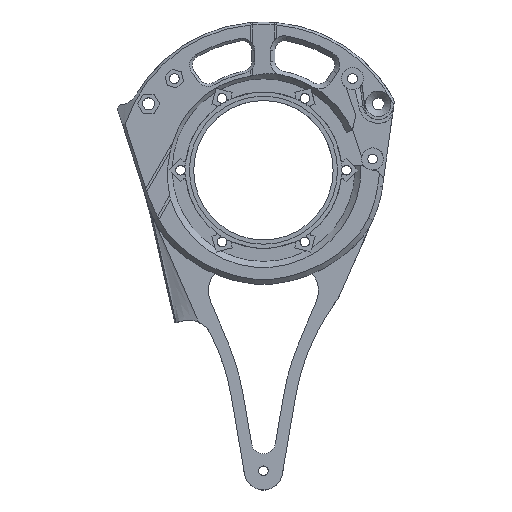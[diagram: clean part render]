
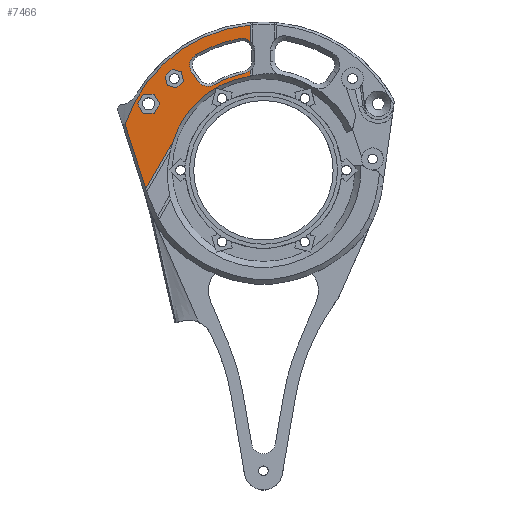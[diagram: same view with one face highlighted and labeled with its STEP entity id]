
A CAD part, top view. The second image highlights one B-rep face of the part: STEP entity #7466.
In plain terms, the highlighted planar face has unit normal (0, 0, 1).
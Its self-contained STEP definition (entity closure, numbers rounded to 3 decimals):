
#248=PLANE('',#8274);
#717=LINE('',#14058,#1255);
#757=LINE('',#14208,#1295);
#758=LINE('',#14210,#1296);
#759=LINE('',#14213,#1297);
#760=LINE('',#14215,#1298);
#761=LINE('',#14217,#1299);
#762=LINE('',#14219,#1300);
#763=LINE('',#14221,#1301);
#764=LINE('',#14222,#1302);
#765=LINE('',#14225,#1303);
#766=LINE('',#14227,#1304);
#767=LINE('',#14229,#1305);
#768=LINE('',#14231,#1306);
#769=LINE('',#14233,#1307);
#770=LINE('',#14234,#1308);
#771=LINE('',#14237,#1309);
#772=LINE('',#14238,#1310);
#1255=VECTOR('',#10152,1000.);
#1295=VECTOR('',#10302,1000.);
#1296=VECTOR('',#10305,1000.);
#1297=VECTOR('',#10306,1000.);
#1298=VECTOR('',#10307,1000.);
#1299=VECTOR('',#10308,1000.);
#1300=VECTOR('',#10309,1000.);
#1301=VECTOR('',#10310,1000.);
#1302=VECTOR('',#10311,1000.);
#1303=VECTOR('',#10312,1000.);
#1304=VECTOR('',#10313,1000.);
#1305=VECTOR('',#10314,1000.);
#1306=VECTOR('',#10315,1000.);
#1307=VECTOR('',#10316,1000.);
#1308=VECTOR('',#10317,1000.);
#1309=VECTOR('',#10320,1000.);
#1310=VECTOR('',#10321,1000.);
#3562=ORIENTED_EDGE('',*,*,#4799,.F.);
#3563=ORIENTED_EDGE('',*,*,#4800,.F.);
#3564=ORIENTED_EDGE('',*,*,#4801,.F.);
#3565=ORIENTED_EDGE('',*,*,#4802,.F.);
#3566=ORIENTED_EDGE('',*,*,#4803,.F.);
#3567=ORIENTED_EDGE('',*,*,#4804,.F.);
#3568=ORIENTED_EDGE('',*,*,#4805,.F.);
#3569=ORIENTED_EDGE('',*,*,#4806,.F.);
#3570=ORIENTED_EDGE('',*,*,#4807,.F.);
#3571=ORIENTED_EDGE('',*,*,#4808,.F.);
#3572=ORIENTED_EDGE('',*,*,#4809,.F.);
#3573=ORIENTED_EDGE('',*,*,#4810,.F.);
#3574=ORIENTED_EDGE('',*,*,#4811,.T.);
#3575=ORIENTED_EDGE('',*,*,#4812,.T.);
#3576=ORIENTED_EDGE('',*,*,#4730,.T.);
#3577=ORIENTED_EDGE('',*,*,#4813,.T.);
#3578=ORIENTED_EDGE('',*,*,#4574,.F.);
#3579=ORIENTED_EDGE('',*,*,#4814,.T.);
#3580=ORIENTED_EDGE('',*,*,#4782,.T.);
#3581=ORIENTED_EDGE('',*,*,#4790,.T.);
#3582=ORIENTED_EDGE('',*,*,#4794,.T.);
#3583=ORIENTED_EDGE('',*,*,#4798,.T.);
#3584=ORIENTED_EDGE('',*,*,#4796,.T.);
#3585=ORIENTED_EDGE('',*,*,#4792,.T.);
#3586=ORIENTED_EDGE('',*,*,#4786,.T.);
#4574=EDGE_CURVE('',#5463,#5464,#5937,.F.);
#4730=EDGE_CURVE('',#5535,#5536,#717,.F.);
#4782=EDGE_CURVE('',#5560,#5561,#5984,.T.);
#4786=EDGE_CURVE('',#5563,#5564,#5985,.T.);
#4790=EDGE_CURVE('',#5561,#5566,#5986,.F.);
#4792=EDGE_CURVE('',#5567,#5563,#5987,.T.);
#4794=EDGE_CURVE('',#5566,#5568,#5988,.T.);
#4796=EDGE_CURVE('',#5569,#5567,#5989,.T.);
#4798=EDGE_CURVE('',#5568,#5569,#757,.F.);
#4799=EDGE_CURVE('',#5570,#5571,#758,.T.);
#4800=EDGE_CURVE('',#5572,#5570,#759,.T.);
#4801=EDGE_CURVE('',#5573,#5572,#760,.T.);
#4802=EDGE_CURVE('',#5574,#5573,#761,.T.);
#4803=EDGE_CURVE('',#5575,#5574,#762,.T.);
#4804=EDGE_CURVE('',#5571,#5575,#763,.T.);
#4805=EDGE_CURVE('',#5576,#5577,#764,.T.);
#4806=EDGE_CURVE('',#5578,#5576,#765,.T.);
#4807=EDGE_CURVE('',#5579,#5578,#766,.T.);
#4808=EDGE_CURVE('',#5580,#5579,#767,.T.);
#4809=EDGE_CURVE('',#5581,#5580,#768,.T.);
#4810=EDGE_CURVE('',#5577,#5581,#769,.T.);
#4811=EDGE_CURVE('',#5564,#5582,#770,.F.);
#4812=EDGE_CURVE('',#5582,#5535,#5990,.F.);
#4813=EDGE_CURVE('',#5536,#5464,#771,.T.);
#4814=EDGE_CURVE('',#5463,#5560,#772,.F.);
#5463=VERTEX_POINT('',#13515);
#5464=VERTEX_POINT('',#13517);
#5535=VERTEX_POINT('',#14059);
#5536=VERTEX_POINT('',#14060);
#5560=VERTEX_POINT('',#14171);
#5561=VERTEX_POINT('',#14172);
#5563=VERTEX_POINT('',#14182);
#5564=VERTEX_POINT('',#14183);
#5566=VERTEX_POINT('',#14193);
#5567=VERTEX_POINT('',#14197);
#5568=VERTEX_POINT('',#14201);
#5569=VERTEX_POINT('',#14205);
#5570=VERTEX_POINT('',#14211);
#5571=VERTEX_POINT('',#14212);
#5572=VERTEX_POINT('',#14214);
#5573=VERTEX_POINT('',#14216);
#5574=VERTEX_POINT('',#14218);
#5575=VERTEX_POINT('',#14220);
#5576=VERTEX_POINT('',#14223);
#5577=VERTEX_POINT('',#14224);
#5578=VERTEX_POINT('',#14226);
#5579=VERTEX_POINT('',#14228);
#5580=VERTEX_POINT('',#14230);
#5581=VERTEX_POINT('',#14232);
#5582=VERTEX_POINT('',#14235);
#5937=CIRCLE('',#8096,39.5);
#5984=CIRCLE('',#8260,5.);
#5985=CIRCLE('',#8263,5.);
#5986=CIRCLE('',#8266,41.);
#5987=CIRCLE('',#8268,55.625);
#5988=CIRCLE('',#8270,5.);
#5989=CIRCLE('',#8272,5.);
#5990=CIRCLE('',#8275,60.625);
#6424=EDGE_LOOP('',(#3562,#3563,#3564,#3565,#3566,#3567));
#6425=EDGE_LOOP('',(#3568,#3569,#3570,#3571,#3572,#3573));
#6426=EDGE_LOOP('',(#3574,#3575,#3576,#3577,#3578,#3579,#3580,#3581,#3582,
#3583,#3584,#3585,#3586));
#6894=FACE_BOUND('',#6424,.T.);
#6895=FACE_BOUND('',#6425,.T.);
#6896=FACE_BOUND('',#6426,.T.);
#7466=ADVANCED_FACE('',(#6894,#6895,#6896),#248,.F.);
#8096=AXIS2_PLACEMENT_3D('',#13516,#9819,#9820);
#8260=AXIS2_PLACEMENT_3D('',#14170,#10268,#10269);
#8263=AXIS2_PLACEMENT_3D('',#14181,#10275,#10276);
#8266=AXIS2_PLACEMENT_3D('',#14192,#10282,#10283);
#8268=AXIS2_PLACEMENT_3D('',#14196,#10287,#10288);
#8270=AXIS2_PLACEMENT_3D('',#14200,#10292,#10293);
#8272=AXIS2_PLACEMENT_3D('',#14204,#10297,#10298);
#8274=AXIS2_PLACEMENT_3D('',#14209,#10303,#10304);
#8275=AXIS2_PLACEMENT_3D('',#14236,#10318,#10319);
#9819=DIRECTION('',(0.,0.,-1.));
#9820=DIRECTION('',(-1.,0.,0.));
#10152=DIRECTION('',(-0.305,0.952,0.));
#10268=DIRECTION('',(0.,0.,-1.));
#10269=DIRECTION('',(-1.,0.,0.));
#10275=DIRECTION('',(0.,0.,-1.));
#10276=DIRECTION('',(-1.,0.,0.));
#10282=DIRECTION('',(0.,0.,-1.));
#10283=DIRECTION('',(-1.,0.,0.));
#10287=DIRECTION('',(0.,0.,-1.));
#10288=DIRECTION('',(-1.,0.,0.));
#10292=DIRECTION('',(0.,0.,-1.));
#10293=DIRECTION('',(-1.,0.,0.));
#10297=DIRECTION('',(0.,0.,-1.));
#10298=DIRECTION('',(-1.,0.,0.));
#10302=DIRECTION('',(0.574,-0.819,0.));
#10303=DIRECTION('',(0.,0.,-1.));
#10304=DIRECTION('',(-1.,0.,0.));
#10305=DIRECTION('',(0.962,-0.272,0.));
#10306=DIRECTION('',(0.245,-0.969,0.));
#10307=DIRECTION('',(-0.717,-0.697,0.));
#10308=DIRECTION('',(-0.962,0.272,0.));
#10309=DIRECTION('',(-0.245,0.969,0.));
#10310=DIRECTION('',(0.717,0.697,0.));
#10311=DIRECTION('',(1.,0.,0.));
#10312=DIRECTION('',(0.5,-0.866,0.));
#10313=DIRECTION('',(-0.5,-0.866,0.));
#10314=DIRECTION('',(-1.,0.,0.));
#10315=DIRECTION('',(-0.5,0.866,0.));
#10316=DIRECTION('',(0.5,0.866,0.));
#10317=DIRECTION('',(0.,-1.,0.));
#10318=DIRECTION('',(0.,0.,-1.));
#10319=DIRECTION('',(-1.,0.,0.));
#10320=DIRECTION('',(0.5,0.866,0.));
#10321=DIRECTION('',(0.,-1.,0.));
#13515=CARTESIAN_POINT('',(-5.499,39.115,-3.792));
#13516=CARTESIAN_POINT('',(0.,0.,
-3.792));
#13517=CARTESIAN_POINT('',(-37.759,11.596,-3.792));
#14058=CARTESIAN_POINT('',(-46.667,-14.938,-3.792));
#14059=CARTESIAN_POINT('',(-57.551,19.061,-3.792));
#14060=CARTESIAN_POINT('',(-48.954,-7.794,-3.792));
#14170=CARTESIAN_POINT('',(-8.761,45.158,-3.792));
#14171=CARTESIAN_POINT('',(-5.499,41.369,-3.792));
#14172=CARTESIAN_POINT('',(-7.809,40.25,-3.792));
#14181=CARTESIAN_POINT('',(-8.761,49.861,-3.792));
#14182=CARTESIAN_POINT('',(-9.626,54.786,-3.792));
#14183=CARTESIAN_POINT('',(-5.499,53.65,-3.792));
#14192=CARTESIAN_POINT('',(0.,0.,-3.792));
#14193=CARTESIAN_POINT('',(-20.507,35.503,-3.792));
#14196=CARTESIAN_POINT('',(0.,0.,-3.792));
#14197=CARTESIAN_POINT('',(-28.205,47.944,-3.792));
#14200=CARTESIAN_POINT('',(-23.008,39.833,-3.792));
#14201=CARTESIAN_POINT('',(-27.104,36.965,-3.792));
#14204=CARTESIAN_POINT('',(-25.67,43.634,-3.792));
#14205=CARTESIAN_POINT('',(-29.766,40.766,-3.792));
#14208=CARTESIAN_POINT('',(-51.649,72.019,-3.792));
#14209=CARTESIAN_POINT('',(0.,0.,-3.792));
#14210=CARTESIAN_POINT('',(-39.927,35.309,-3.792));
#14211=CARTESIAN_POINT('',(-39.899,35.301,-3.792));
#14212=CARTESIAN_POINT('',(-36.066,34.217,-3.792));
#14213=CARTESIAN_POINT('',(-40.884,39.191,-3.792));
#14214=CARTESIAN_POINT('',(-40.877,39.163,-3.792));
#14215=CARTESIAN_POINT('',(-38.001,41.961,-3.792));
#14216=CARTESIAN_POINT('',(-38.022,41.941,-3.792));
#14217=CARTESIAN_POINT('',(-34.161,40.849,-3.792));
#14218=CARTESIAN_POINT('',(-34.188,40.857,-3.792));
#14219=CARTESIAN_POINT('',(-33.203,36.967,-3.792));
#14220=CARTESIAN_POINT('',(-33.21,36.995,-3.792));
#14221=CARTESIAN_POINT('',(-36.087,34.197,-3.792));
#14222=CARTESIAN_POINT('',(-50.049,23.613,-3.792));
#14223=CARTESIAN_POINT('',(-50.02,23.613,-3.792));
#14224=CARTESIAN_POINT('',(-45.459,23.613,-3.792));
#14225=CARTESIAN_POINT('',(-52.315,27.588,-3.792));
#14226=CARTESIAN_POINT('',(-52.301,27.563,-3.792));
#14227=CARTESIAN_POINT('',(-50.006,31.538,-3.792));
#14228=CARTESIAN_POINT('',(-50.02,31.513,-3.792));
#14229=CARTESIAN_POINT('',(-45.43,31.513,-3.792));
#14230=CARTESIAN_POINT('',(-45.459,31.513,-3.792));
#14231=CARTESIAN_POINT('',(-43.164,27.538,-3.792));
#14232=CARTESIAN_POINT('',(-43.179,27.563,-3.792));
#14233=CARTESIAN_POINT('',(-45.474,23.588,-3.792));
#14234=CARTESIAN_POINT('',(-5.499,0.,-3.792));
#14235=CARTESIAN_POINT('',(-5.499,60.375,-3.792));
#14236=CARTESIAN_POINT('',(0.,0.,-3.792));
#14237=CARTESIAN_POINT('',(-33.341,19.249,-3.792));
#14238=CARTESIAN_POINT('',(-5.499,0.,-3.792));
